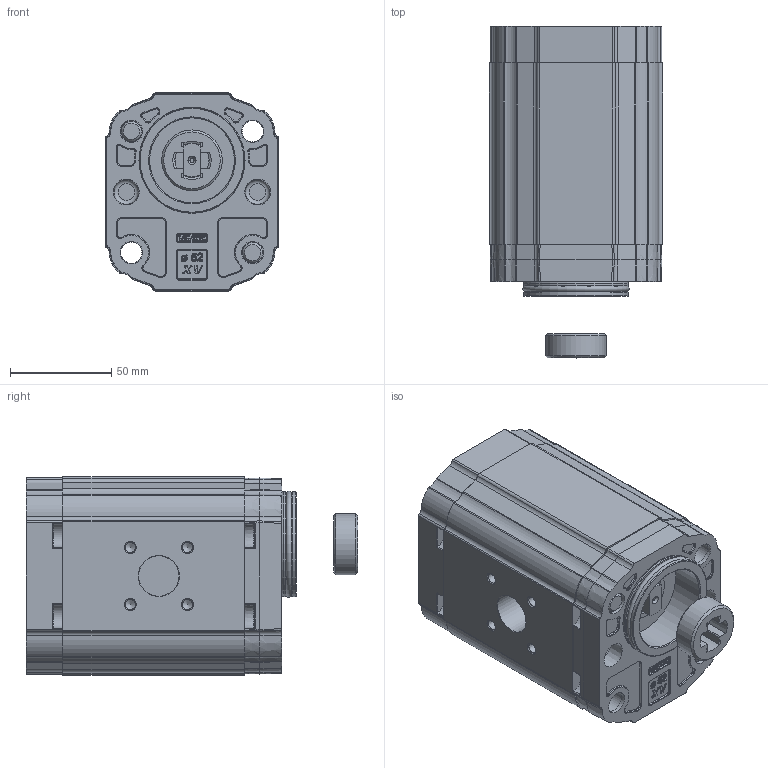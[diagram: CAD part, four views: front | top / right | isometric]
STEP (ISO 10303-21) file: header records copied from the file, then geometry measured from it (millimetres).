
FILE_DESCRIPTION(/* description */ ('Unknown'),/* implementation_level */ '2;1');
FILE_NAME(/* name */ 'X2T5932CSSD',/* time_stamp */ '2026-06-03T18:47:50+02:00',/* author */ ('Unknown'),/* organization */ ('Unknown'),/* preprocessor_version */ 'ST-DEVELOPER v16.7',/* originating_system */ 'Solid Edge',/* authorisation */ 'Unknown');
FILE_SCHEMA (('AUTOMOTIVE_DESIGN {1 0 10303 214 3 1 1}'));
Products named in the file (5): X2T5932CSSD; X2T32; 2C; X2SSH90; XT216-D
Assembly tree (4 placements, depth 2):
  X2T5932CSSD
    X2T32
    2C
    X2SSH90
    XT216-D
Bounding box: 86 x 164.2 x 98 mm (x, y, z)
Volume: 883027.6 mm3; surface area: 121889.1 mm2
Topology: 8 solids, 12 shells, 1768 faces, 4418 edges, 2727 vertices
Faces by surface type: cylinder 542, plane 500, bspline 287, cone 215, torus 181, sphere 43
Full cylindrical faces by diameter (mm): 2 x1, 3 x2, 5 x8, 10 x6, 10.5 x4, 11 x6, 12 x2, 12.5 x1, 16.8 x1, 17.42 x2, 20 x2, 23 x1, 25 x2, 30 x1, 32.5 x1, 36.5 x1, 42 x1, 47.8 x2, 52 x2
Entity records: 73266 total; most frequent: CARTESIAN_POINT 21029, ORIENTED_EDGE 8374, DIRECTION 8190, EDGE_CURVE 4187, AXIS2_PLACEMENT_3D 3246, VERTEX_POINT 2674, FACE_BOUND 2025, EDGE_LOOP 2015
